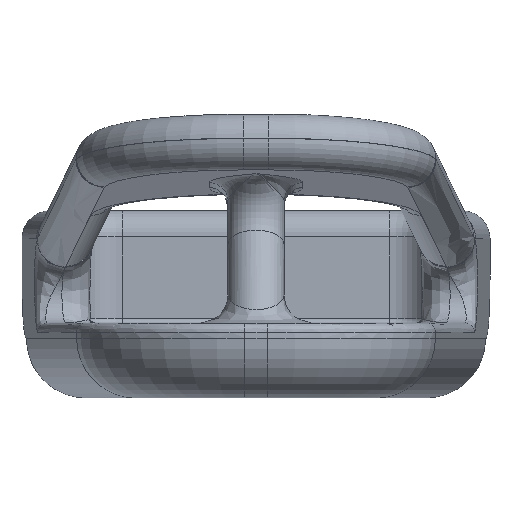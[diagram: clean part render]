
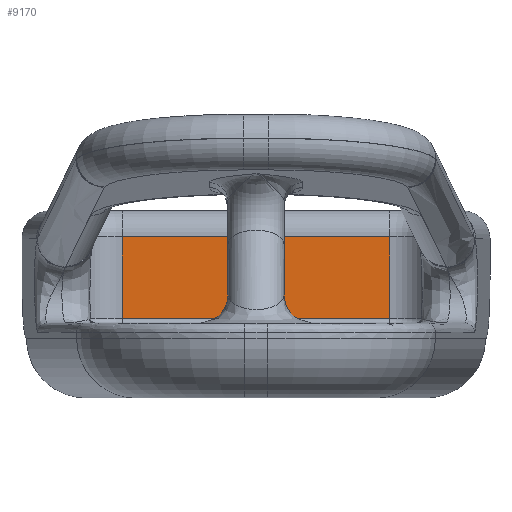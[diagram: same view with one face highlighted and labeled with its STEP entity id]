
A CAD part, left-side view. The second image highlights one B-rep face of the part: STEP entity #9170.
In plain terms, the highlighted planar face has unit normal (-1, 0, 0).
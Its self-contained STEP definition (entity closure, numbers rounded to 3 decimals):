
#582=PLANE('',#9717);
#999=FACE_OUTER_BOUND('',#1474,.T.);
#1474=EDGE_LOOP('',(#8455,#8456,#8457,#8458));
#2601=LINE('',#14970,#3732);
#2605=LINE('',#15158,#3736);
#2635=LINE('',#15496,#3766);
#2638=LINE('',#15501,#3769);
#3732=VECTOR('',#11667,10.);
#3736=VECTOR('',#11709,10.);
#3766=VECTOR('',#11823,10.);
#3769=VECTOR('',#11830,10.);
#4667=VERTEX_POINT('',#14964);
#4668=VERTEX_POINT('',#14968);
#4679=VERTEX_POINT('',#15150);
#4681=VERTEX_POINT('',#15156);
#5900=EDGE_CURVE('',#4668,#4667,#2601,.T.);
#5920=EDGE_CURVE('',#4681,#4679,#2605,.T.);
#5983=EDGE_CURVE('',#4667,#4681,#2635,.T.);
#5986=EDGE_CURVE('',#4679,#4668,#2638,.T.);
#8455=ORIENTED_EDGE('',*,*,#5900,.F.);
#8456=ORIENTED_EDGE('',*,*,#5986,.F.);
#8457=ORIENTED_EDGE('',*,*,#5920,.F.);
#8458=ORIENTED_EDGE('',*,*,#5983,.F.);
#9170=ADVANCED_FACE('',(#999),#582,.F.);
#9717=AXIS2_PLACEMENT_3D('',#15502,#11831,#11832);
#11667=DIRECTION('',(0.,1.,0.));
#11709=DIRECTION('',(0.,-1.,0.));
#11823=DIRECTION('',(0.,0.,1.));
#11830=DIRECTION('',(0.,0.,-1.));
#11831=DIRECTION('center_axis',(1.,0.,0.));
#11832=DIRECTION('ref_axis',(0.,-1.,0.));
#14964=CARTESIAN_POINT('',(-3.,7.138,4.25));
#14968=CARTESIAN_POINT('',(-3.,-7.138,4.25));
#14970=CARTESIAN_POINT('',(-3.,4.641,4.25));
#15150=CARTESIAN_POINT('',(-3.,-7.138,8.6));
#15156=CARTESIAN_POINT('',(-3.,7.138,8.6));
#15158=CARTESIAN_POINT('',(-3.,4.641,8.6));
#15496=CARTESIAN_POINT('',(-3.,7.138,15.875));
#15501=CARTESIAN_POINT('',(-3.,-7.138,15.875));
#15502=CARTESIAN_POINT('Origin',(-3.,9.283,15.875));
